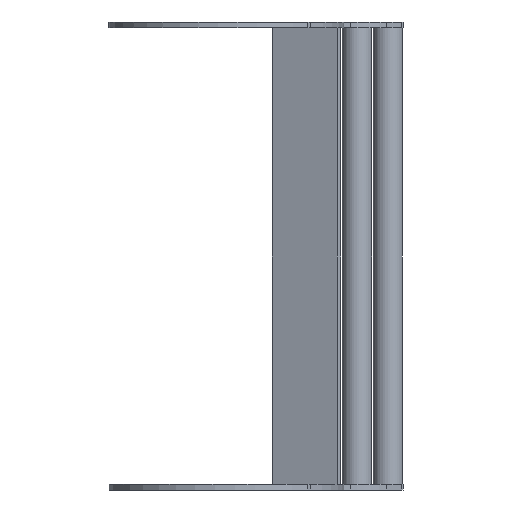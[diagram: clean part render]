
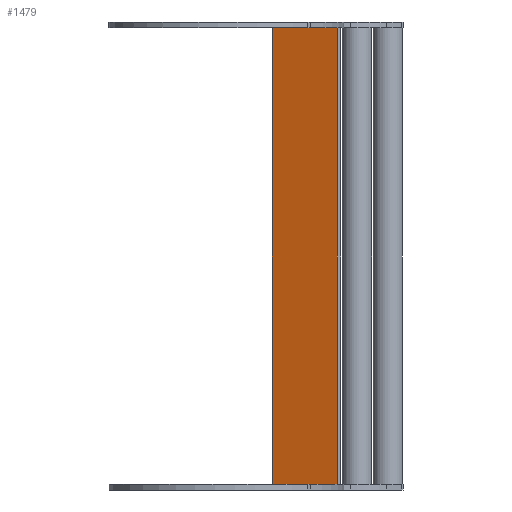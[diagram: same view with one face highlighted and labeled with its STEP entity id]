
A CAD part, front view. The second image highlights one B-rep face of the part: STEP entity #1479.
In plain terms, the highlighted planar face has unit normal (-0.342, -0.94, 0).
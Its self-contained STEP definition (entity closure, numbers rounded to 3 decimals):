
#33 = CARTESIAN_POINT ( 'NONE',  ( 56.745, 61.65, 0. ) ) ;
#141 = DIRECTION ( 'NONE',  ( 0.342, 0.94, 0. ) ) ;
#330 = EDGE_CURVE ( 'NONE', #2821, #920, #1082, .T. ) ;
#521 = CARTESIAN_POINT ( 'NONE',  ( 56.745, 61.65, -233. ) ) ;
#920 = VERTEX_POINT ( 'NONE', #5148 ) ;
#1082 = LINE ( 'NONE', #2409, #3116 ) ;
#1089 = CARTESIAN_POINT ( 'NONE',  ( 56.745, 61.65, -233. ) ) ;
#1149 = ORIENTED_EDGE ( 'NONE', *, *, #330, .F. ) ;
#1367 = CARTESIAN_POINT ( 'NONE',  ( 56.745, 61.65, -233. ) ) ;
#1388 = VECTOR ( 'NONE', #4682, 1000. ) ;
#1479 = ADVANCED_FACE ( 'NONE', ( #4439 ), #3785, .F. ) ;
#1542 = EDGE_CURVE ( 'NONE', #2953, #2821, #4921, .T. ) ;
#1580 = DIRECTION ( 'NONE',  ( 0., 0., 1. ) ) ;
#1854 = EDGE_LOOP ( 'NONE', ( #4139, #1149, #3850, #2121 ) ) ;
#1918 = EDGE_CURVE ( 'NONE', #3159, #920, #2311, .T. ) ;
#2121 = ORIENTED_EDGE ( 'NONE', *, *, #3631, .T. ) ;
#2199 = DIRECTION ( 'NONE',  ( -0.94, 0.342, 0. ) ) ;
#2311 = LINE ( 'NONE', #33, #3605 ) ;
#2347 = LINE ( 'NONE', #1089, #1388 ) ;
#2409 = CARTESIAN_POINT ( 'NONE',  ( 23.4, 73.787, -233. ) ) ;
#2821 = VERTEX_POINT ( 'NONE', #4289 ) ;
#2953 = VERTEX_POINT ( 'NONE', #1367 ) ;
#3116 = VECTOR ( 'NONE', #1580, 1000. ) ;
#3159 = VERTEX_POINT ( 'NONE', #3559 ) ;
#3279 = VECTOR ( 'NONE', #2199, 1000. ) ;
#3301 = AXIS2_PLACEMENT_3D ( 'NONE', #521, #141, #4581 ) ;
#3309 = DIRECTION ( 'NONE',  ( -0.94, 0.342, 0. ) ) ;
#3485 = CARTESIAN_POINT ( 'NONE',  ( 56.745, 61.65, -233. ) ) ;
#3559 = CARTESIAN_POINT ( 'NONE',  ( 56.745, 61.65, 0. ) ) ;
#3605 = VECTOR ( 'NONE', #3309, 1000. ) ;
#3631 = EDGE_CURVE ( 'NONE', #2953, #3159, #2347, .T. ) ;
#3785 = PLANE ( 'NONE',  #3301 ) ;
#3850 = ORIENTED_EDGE ( 'NONE', *, *, #1542, .F. ) ;
#4139 = ORIENTED_EDGE ( 'NONE', *, *, #1918, .T. ) ;
#4289 = CARTESIAN_POINT ( 'NONE',  ( 23.4, 73.787, -233. ) ) ;
#4439 = FACE_OUTER_BOUND ( 'NONE', #1854, .T. ) ;
#4581 = DIRECTION ( 'NONE',  ( -0.94, 0.342, 0. ) ) ;
#4682 = DIRECTION ( 'NONE',  ( 0., 0., 1. ) ) ;
#4921 = LINE ( 'NONE', #3485, #3279 ) ;
#5148 = CARTESIAN_POINT ( 'NONE',  ( 23.4, 73.787, 0. ) ) ;
